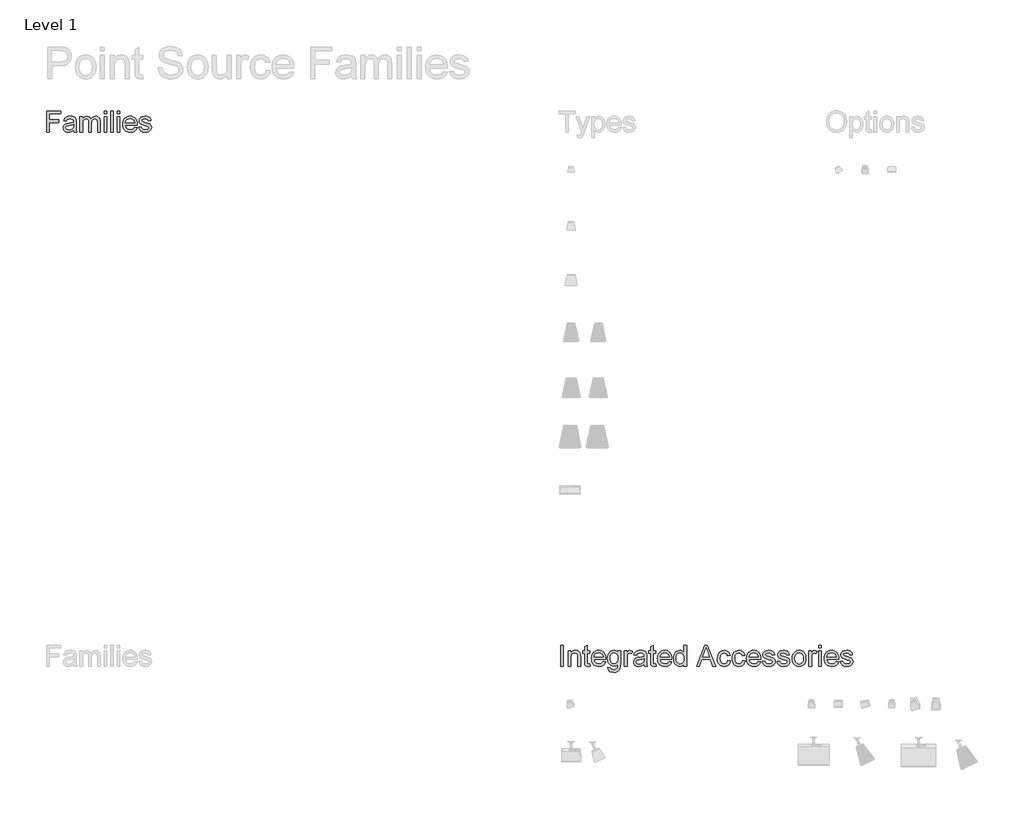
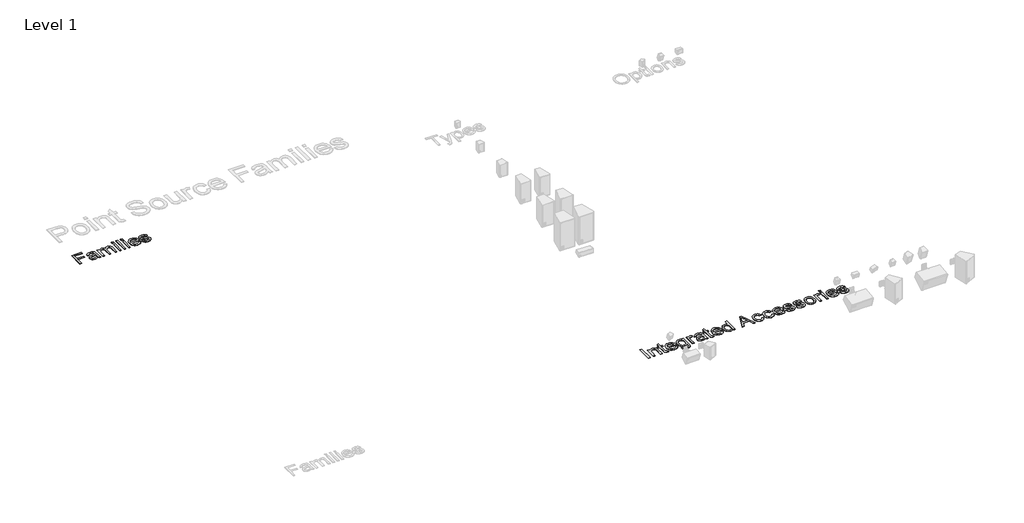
# One storey, part 8 of 12: 2 proxies.
"""IFC4 building model written with IfcOpenShell, lengths in millimetres."""

from ifc_helpers import new_model, si_unit, origin, origin_with_axes, place, context, project, spatial, polyline, outline, extrude, element, save

model = new_model("IFC4")

# Units and contexts
model_context = context("Model", 3, world=origin())
ifc_project = project(units=[si_unit("LENGTHUNIT", "METRE", prefix="MILLI")], contexts=[model_context])

# Site, building, storey
site = spatial("IfcSite", under=ifc_project)
building = spatial("IfcBuilding", under=site)
storey = spatial("IfcBuildingStorey", under=building, Name="Level 1", Elevation=0.0)

# Proxies
placement = place(None, origin())
element("IfcBuildingElementProxy", 1, Name="400mm Arial", ObjectType="400mm Arial", at=placement, inside=storey, context=model_context, shape_type="SweptSolid", body=[
    extrude(outline(polyline([(-21056.720891, 17351.3054836), (-21056.720891, 17743.0630593), (-20793.5087698, 17743.0630593), (-20793.5087698, 17694.0933624), (-21007.7511941, 17694.0933624), (-21007.7511941, 17577.7903321), (-20824.1148304, 17577.7903321), (-20824.1148304, 17528.8206351), (-21007.7511941, 17528.8206351), (-21007.7511941, 17351.3054836), (-21056.720891, 17351.3054836)])), origin_with_axes(), (0.0, 0.0, 1.0), 5.0),
    extrude(outline(polyline([(-20548.660285, 17388.0327563), (-20572.0571836, 17367.97144), (-20596.1475009, 17354.8443093), (-20621.4811893, 17347.5992809), (-20648.6082016, 17345.1842715), (-20670.4120309, 17346.6368638), (-20689.5318522, 17350.9946408), (-20705.9676654, 17358.2576024), (-20719.7194706, 17368.4257487), (-20730.5780466, 17380.8534831), (-20738.3341723, 17394.895209), (-20742.9878477, 17410.5509263), (-20744.5390729, 17427.8206351), (-20742.1957963, 17448.1210612), (-20735.1659668, 17466.5564305), (-20724.3223352, 17482.3376805), (-20710.5376524, 17494.6757487), (-20676.2493001, 17510.7439305), (-20633.879035, 17518.1085139), (-20583.8094327, 17525.855673), (-20548.9472168, 17534.9418472), (-20548.660285, 17545.8452563), (-20552.0317338, 17567.6998965), (-20562.1460804, 17581.9986654), (-20584.7658721, 17592.6151427), (-20616.2805501, 17596.1539684), (-20645.4519516, 17593.7987364), (-20665.8241107, 17586.7330404), (-20679.7163929, 17573.6656872), (-20689.4481638, 17553.3054836), (-20738.4178607, 17559.4266957), (-20729.9175056, 17586.2069987), (-20717.2327282, 17607.2486654), (-20699.1799346, 17623.3407582), (-20674.5755312, 17635.2723396), (-20644.4835568, 17642.660834), (-20609.9680501, 17645.1236654), (-20576.8632916, 17642.9477658), (-20550.6209857, 17636.4200669), (-20530.8346458, 17626.6046076), (-20517.097785, 17614.5654268), (-20507.9876997, 17599.6808387), (-20502.0816865, 17581.3291578), (-20499.690588, 17538.480673), (-20499.690588, 17477.5554836), (-20497.2038456, 17392.4801995), (-20487.4481638, 17351.3054836), (-20536.4178607, 17351.3054836), (-20544.2606638, 17368.3301048), (-20548.660285, 17388.0327563)]), holes=[polyline([(-20548.660285, 17485.9721502), (-20581.5618001, 17477.8185044), (-20627.6621789, 17470.9560518), (-20669.7933342, 17463.0176048), (-20680.7565208, 17457.5898112), (-20688.8743001, 17450.105673), (-20693.8956069, 17441.1390536), (-20695.5693759, 17431.2638169), (-20691.9229507, 17416.7020271), (-20680.9836751, 17404.7704457), (-20662.990659, 17396.8080877), (-20638.1830122, 17394.1539684), (-20611.8809289, 17397.0830641), (-20588.6394516, 17405.870351), (-20569.7975956, 17418.8181493), (-20556.6943759, 17434.228779), (-20550.8840066, 17450.105673), (-20548.9472168, 17472.103779), (-20548.660285, 17485.9721502)])]), origin_with_axes(), (0.0, 0.0, 1.0), 5.0),
    extrude(outline(polyline([(-20432.3572547, 17351.3054836), (-20432.3572547, 17639.0024533), (-20383.3875577, 17639.0024533), (-20383.3875577, 17591.6587033), (-20368.658391, 17613.405744), (-20349.720891, 17630.4423207), (-20327.2206543, 17641.4533292), (-20301.8032774, 17645.1236654), (-20274.5686657, 17641.3815963), (-20252.7379365, 17630.1553889), (-20236.4306448, 17612.1862838), (-20225.7663456, 17588.2155215), (-20207.9167954, 17613.1128344), (-20187.5565918, 17630.8966294), (-20164.6857348, 17641.5669064), (-20139.3042244, 17645.1236654), (-20119.7002057, 17643.6441732), (-20102.4932632, 17639.2056966), (-20087.683397, 17631.8082357), (-20075.2706069, 17621.4517904), (-20065.4581365, 17608.0168058), (-20058.4492291, 17591.3837269), (-20054.2438846, 17571.5525539), (-20052.8421032, 17548.5232866), (-20052.8421032, 17351.3054836), (-20101.8118001, 17351.3054836), (-20101.8118001, 17527.4816199), (-20106.3548872, 17568.369404), (-20112.7391202, 17579.6434334), (-20122.8056448, 17588.5024533), (-20135.7534431, 17594.2410896), (-20150.7814971, 17596.1539684), (-20177.3107348, 17591.2522165), (-20198.9382206, 17576.5469608), (-20207.3279874, 17565.2669537), (-20213.320678, 17551.03394), (-20218.1148304, 17513.7088927), (-20218.1148304, 17351.3054836), (-20267.0845274, 17351.3054836), (-20267.0845274, 17532.9333245), (-20269.9179791, 17560.6222449), (-20278.4183342, 17580.3727184), (-20293.3746552, 17592.2086559), (-20315.5760047, 17596.1539684), (-20334.4417717, 17593.5237601), (-20351.8250577, 17585.6331351), (-20366.1716486, 17572.6733813), (-20375.9273304, 17554.8357866), (-20381.5225009, 17530.0879173), (-20383.3875577, 17496.3973396), (-20383.3875577, 17351.3054836), (-20432.3572547, 17351.3054836)])), origin_with_axes(), (0.0, 0.0, 1.0), 5.0),
    extrude(outline(polyline([(-19979.3875577, 17351.3054836), (-19979.3875577, 17639.0024533), (-19930.4178607, 17639.0024533), (-19930.4178607, 17351.3054836), (-19979.3875577, 17351.3054836)])), origin_with_axes(), (0.0, 0.0, 1.0), 5.0),
    extrude(outline(polyline([(-19979.3875577, 17694.0933624), (-19979.3875577, 17743.0630593), (-19930.4178607, 17743.0630593), (-19930.4178607, 17694.0933624), (-19979.3875577, 17694.0933624)])), origin_with_axes(), (0.0, 0.0, 1.0), 5.0),
    extrude(outline(polyline([(-19856.9633153, 17351.3054836), (-19856.9633153, 17743.0630593), (-19807.9936183, 17743.0630593), (-19807.9936183, 17351.3054836), (-19856.9633153, 17351.3054836)])), origin_with_axes(), (0.0, 0.0, 1.0), 5.0),
    extrude(outline(polyline([(-19734.5390729, 17351.3054836), (-19734.5390729, 17639.0024533), (-19685.5693759, 17639.0024533), (-19685.5693759, 17351.3054836), (-19734.5390729, 17351.3054836)])), origin_with_axes(), (0.0, 0.0, 1.0), 5.0),
    extrude(outline(polyline([(-19734.5390729, 17694.0933624), (-19734.5390729, 17743.0630593), (-19685.5693759, 17743.0630593), (-19685.5693759, 17694.0933624), (-19734.5390729, 17694.0933624)])), origin_with_axes(), (0.0, 0.0, 1.0), 5.0),
    extrude(outline(polyline([(-19410.6886941, 17437.0024533), (-19362.6754365, 17430.8812411), (-19370.0370309, 17411.6508316), (-19379.975034, 17394.7039211), (-19392.4894457, 17380.0405096), (-19407.580266, 17367.6605972), (-19425.0920736, 17357.8272047), (-19444.8694469, 17350.8033529), (-19491.220891, 17345.1842715), (-19521.605775, 17347.6082475), (-19548.6789876, 17354.8801758), (-19572.4405288, 17367.0000563), (-19592.8903986, 17383.9678889), (-19609.3351784, 17405.3114317), (-19621.0814497, 17430.5584429), (-19628.1292125, 17459.7089223), (-19630.4784668, 17492.7628699), (-19628.1053015, 17526.937645), (-19620.9858058, 17557.0595082), (-19609.1199796, 17583.1284594), (-19592.5078229, 17605.1444987), (-19572.1117528, 17622.6353841), (-19548.8941865, 17635.1288737), (-19522.855124, 17642.6249675), (-19493.9945653, 17645.1236654), (-19466.0635461, 17642.6309452), (-19440.8045795, 17635.1527847), (-19418.2176654, 17622.6891839), (-19398.3028039, 17605.2401427), (-19382.0463231, 17583.2719253), (-19370.4345511, 17557.2507961), (-19363.4674879, 17527.1767549), (-19361.1451335, 17493.0498018), (-19361.4320653, 17479.8509381), (-19581.5087698, 17479.8509381), (-19578.6723292, 17460.3096858), (-19573.0323257, 17443.1953983), (-19564.5887592, 17428.5080759), (-19553.3416297, 17416.2477184), (-19524.9234242, 17399.6774059), (-19490.2644516, 17394.1539684), (-19464.2014782, 17396.7124438), (-19442.2511941, 17404.3878699), (-19424.4135994, 17417.6584665), (-19410.6886941, 17437.0024533)]), holes=[polyline([(-19581.5087698, 17528.8206351), (-19410.1148304, 17528.8206351), (-19416.7381732, 17554.6923207), (-19429.721838, 17573.199423), (-19443.076123, 17583.2420366), (-19458.2715539, 17590.4153321), (-19494.1858532, 17596.1539684), (-19527.1949677, 17591.5750148), (-19554.4893569, 17577.838154), (-19573.4627234, 17556.4258671), (-19581.5087698, 17528.8206351)])]), origin_with_axes(), (0.0, 0.0, 1.0), 5.0),
    extrude(outline(polyline([(-19330.5390729, 17437.0024533), (-19281.5693759, 17443.1236654), (-19273.8461278, 17422.1776427), (-19258.9017622, 17406.7789684), (-19236.6406354, 17397.3102184), (-19206.9671032, 17394.1539684), (-19177.6522357, 17397.0471976), (-19157.0409668, 17405.7268851), (-19144.8463645, 17418.3040631), (-19140.7814971, 17432.8897639), (-19144.8702755, 17445.371298), (-19157.1366107, 17454.8878699), (-19207.5409668, 17468.8518851), (-19281.2824441, 17492.8106919), (-19299.9449677, 17504.8498728), (-19313.4666297, 17520.7865442), (-19321.680053, 17539.6044893), (-19324.4178607, 17560.2874911), (-19322.2180501, 17579.2608576), (-19315.6186183, 17596.775654), (-19305.2173399, 17612.1384618), (-19291.6119895, 17624.6558624), (-19260.4798872, 17639.1459192), (-19218.3487319, 17645.1236654), (-19186.4753891, 17642.7206114), (-19158.7625577, 17635.5114495), (-19136.4775198, 17624.2015536), (-19120.8875577, 17609.496298), (-19110.5580122, 17590.3077326), (-19104.0542244, 17565.5479078), (-19153.0239213, 17559.4266957), (-19159.2049109, 17574.8373254), (-19171.4353797, 17586.4461086), (-19189.8348825, 17593.7270035), (-19214.5229744, 17596.1539684), (-19242.6422925, 17593.8346029), (-19261.3885047, 17586.8765063), (-19271.933249, 17576.8338927), (-19275.4481638, 17565.260976), (-19269.6138835, 17551.010029), (-19251.345891, 17540.2022639), (-19209.1669138, 17529.7770745), (-19137.2904933, 17506.7268851), (-19118.3051713, 17495.7039211), (-19103.9107585, 17480.6160896), (-19094.8365397, 17461.4155688), (-19091.8118001, 17438.0545366), (-19095.3625814, 17413.9044419), (-19106.0149251, 17391.1890063), (-19123.3623446, 17371.6895982), (-19146.9983532, 17357.1875858), (-19175.5480691, 17348.1851), (-19207.6366107, 17345.1842715), (-19233.9924938, 17346.630886), (-19257.0127944, 17350.9707298), (-19276.6975127, 17358.2038027), (-19293.0466486, 17368.3301048), (-19306.4009336, 17381.3018141), (-19317.1010994, 17397.0711086), (-19325.1471458, 17415.6379883), (-19330.5390729, 17437.0024533)])), origin_with_axes(), (0.0, 0.0, 1.0), 5.0),
])
element("IfcBuildingElementProxy", 2, Name="400mm Arial", ObjectType="400mm Arial", at=placement, inside=storey, context=model_context, shape_type="SweptSolid", body=[
    extrude(outline(polyline([(-11437.7764845, 7351.3054836), (-11437.7764845, 7743.0630593), (-11388.8067875, 7743.0630593), (-11388.8067875, 7351.3054836), (-11437.7764845, 7351.3054836)])), origin_with_axes(), (0.0, 0.0, 1.0), 5.0),
    extrude(outline(polyline([(-11296.9886057, 7351.3054836), (-11296.9886057, 7639.0024533), (-11248.0189088, 7639.0024533), (-11248.0189088, 7598.8319987), (-11231.006243, 7619.0846029), (-11210.5743065, 7633.5507487), (-11186.7230991, 7642.2304362), (-11159.4526209, 7645.1236654), (-11135.3144817, 7642.7923444), (-11113.2087762, 7635.7983813), (-11094.7734069, 7625.0145271), (-11081.6462762, 7611.3135328), (-11072.7394343, 7594.7312648), (-11066.9649315, 7575.3035896), (-11064.3825451, 7527.9598396), (-11064.3825451, 7351.3054836), (-11113.3522421, 7351.3054836), (-11113.3522421, 7521.3604078), (-11114.7629902, 7546.6821408), (-11118.9952345, 7564.6871124), (-11126.8021711, 7577.5870887), (-11138.9369959, 7587.5938358), (-11154.4910915, 7594.0139353), (-11172.5558406, 7596.1539684), (-11201.2370669, 7591.3478605), (-11225.6860489, 7576.9295366), (-11235.4566751, 7565.1593543), (-11242.4356938, 7549.0732393), (-11246.623105, 7528.6711914), (-11248.0189088, 7503.9532108), (-11248.0189088, 7351.3054836), (-11296.9886057, 7351.3054836)])), origin_with_axes(), (0.0, 0.0, 1.0), 5.0),
    extrude(outline(polyline([(-10892.9886057, 7392.1454457), (-10886.8673936, 7349.8708245), (-10923.4990224, 7345.1842715), (-10947.0035205, 7347.2167052), (-10964.5302724, 7353.3140063), (-10976.9161625, 7362.7110233), (-10984.9980754, 7374.6426048), (-10989.4455186, 7395.1343188), (-10990.9279997, 7430.2117336), (-10990.9279997, 7590.0327563), (-11027.6552724, 7590.0327563), (-11027.6552724, 7639.0024533), (-10990.9279997, 7639.0024533), (-10990.9279997, 7708.918173), (-10941.9583027, 7737.7069987), (-10941.9583027, 7639.0024533), (-10892.9886057, 7639.0024533), (-10892.9886057, 7590.0327563), (-10941.9583027, 7590.0327563), (-10941.9583027, 7431.6463927), (-10939.3759163, 7406.3963927), (-10931.0070716, 7397.4536843), (-10914.3172042, 7394.1539684), (-10892.9886057, 7392.1454457)])), origin_with_axes(), (0.0, 0.0, 1.0), 5.0),
    extrude(outline(polyline([(-10642.5927724, 7437.0024533), (-10594.5795148, 7430.8812411), (-10601.9411093, 7411.6508316), (-10611.8791124, 7394.7039211), (-10624.3935241, 7380.0405096), (-10639.4843444, 7367.6605972), (-10656.9961519, 7357.8272047), (-10676.7735252, 7350.8033529), (-10723.1249694, 7345.1842715), (-10753.5098534, 7347.6082475), (-10780.583066, 7354.8801758), (-10804.3446072, 7367.0000563), (-10824.7944769, 7383.9678889), (-10841.2392568, 7405.3114317), (-10852.9855281, 7430.5584429), (-10860.0332909, 7459.7089223), (-10862.3825451, 7492.7628699), (-10860.0093799, 7526.937645), (-10852.8898841, 7557.0595082), (-10841.0240579, 7583.1284594), (-10824.4119012, 7605.1444987), (-10804.0158311, 7622.6353841), (-10780.7982648, 7635.1288737), (-10754.7592023, 7642.6249675), (-10725.8986436, 7645.1236654), (-10697.9676244, 7642.6309452), (-10672.7086578, 7635.1527847), (-10650.1217438, 7622.6891839), (-10630.2068822, 7605.2401427), (-10613.9504014, 7583.2719253), (-10602.3386294, 7557.2507961), (-10595.3715662, 7527.1767549), (-10593.0492118, 7493.0498018), (-10593.3361436, 7479.8509381), (-10813.4128482, 7479.8509381), (-10810.5764076, 7460.3096858), (-10804.936404, 7443.1953983), (-10796.4928375, 7428.5080759), (-10785.245708, 7416.2477184), (-10756.8275025, 7399.6774059), (-10722.16853, 7394.1539684), (-10696.1055565, 7396.7124438), (-10674.1552724, 7404.3878699), (-10656.3176777, 7417.6584665), (-10642.5927724, 7437.0024533)]), holes=[polyline([(-10813.4128482, 7528.8206351), (-10642.0189088, 7528.8206351), (-10648.6422516, 7554.6923207), (-10661.6259163, 7573.199423), (-10674.9802014, 7583.2420366), (-10690.1756322, 7590.4153321), (-10726.0899315, 7596.1539684), (-10759.0990461, 7591.5750148), (-10786.3934353, 7577.838154), (-10805.3668018, 7556.4258671), (-10813.4128482, 7528.8206351)])]), origin_with_axes(), (0.0, 0.0, 1.0), 5.0),
    extrude(outline(polyline([(-10556.3219391, 7326.8206351), (-10507.3522421, 7320.699423), (-10501.9483595, 7305.3963927), (-10491.4753482, 7294.8755593), (-10470.8879902, 7286.6980025), (-10443.9403103, 7283.9721502), (-10415.1993065, 7287.0566673), (-10393.822886, 7296.3102184), (-10378.9980754, 7311.135029), (-10369.9119012, 7330.9333245), (-10366.5643633, 7388.0327563), (-10382.8596995, 7371.9645745), (-10401.0440035, 7360.4873018), (-10421.1172752, 7353.6009381), (-10443.0795148, 7351.3054836), (-10469.9285619, 7353.9775361), (-10493.5675593, 7361.9936938), (-10513.996507, 7375.3539566), (-10531.215405, 7394.0583245), (-10544.8775439, 7416.4987838), (-10554.6362146, 7441.0673207), (-10560.491417, 7467.7639353), (-10562.4431512, 7496.5886275), (-10558.9401919, 7536.125441), (-10548.4313141, 7572.4820934), (-10531.2871379, 7603.2913974), (-10507.8782838, 7626.1861654), (-10479.0057696, 7640.3892904), (-10445.4706133, 7645.1236654), (-10422.5698676, 7642.4456351), (-10401.785244, 7634.4115442), (-10383.1167426, 7621.0213927), (-10366.5643633, 7602.2751805), (-10366.5643633, 7639.0024533), (-10317.5946663, 7639.0024533), (-10317.5946663, 7390.6151427), (-10320.9422042, 7333.2646455), (-10330.9848179, 7295.4972449), (-10348.2844154, 7270.4504883), (-10373.402905, 7251.261923), (-10405.7903339, 7239.0673207), (-10444.8967497, 7235.0024533), (-10490.4591313, 7240.7291341), (-10509.6088413, 7247.8874852), (-10526.3375641, 7257.9091768), (-10539.8502594, 7270.8061642), (-10549.351887, 7286.5904031), (-10554.8424469, 7305.2618934), (-10556.3219391, 7326.8206351)]), holes=[polyline([(-10513.4734542, 7499.9361654), (-10508.248904, 7455.0193804), (-10501.7182163, 7437.8243934), (-10492.5752535, 7424.1383434), (-10481.4596344, 7413.6982097), (-10469.0109779, 7406.2409713), (-10455.229284, 7401.7666282), (-10440.1145527, 7400.2751805), (-10411.4333264, 7406.2051048), (-10387.7494959, 7423.9948775), (-10378.4810004, 7437.5464282), (-10371.8606464, 7454.4813832), (-10366.5643633, 7498.5015063), (-10372.0160679, 7540.9554599), (-10378.8306985, 7557.7260269), (-10388.3711815, 7571.525654), (-10412.4017213, 7589.9968898), (-10426.0847823, 7594.6146988), (-10440.8797042, 7596.1539684), (-10455.4265496, 7594.6386098), (-10468.843601, 7590.0925338), (-10492.2883216, 7571.9082298), (-10501.5568171, 7558.3178238), (-10508.1771711, 7541.7923444), (-10513.4734542, 7499.9361654)])]), origin_with_axes(), (0.0, 0.0, 1.0), 5.0),
    extrude(outline(polyline([(-10244.1401209, 7351.3054836), (-10244.1401209, 7639.0024533), (-10201.291636, 7639.0024533), (-10201.291636, 7596.4409002), (-10185.4625641, 7621.1170366), (-10170.8768633, 7635.6549154), (-10156.2433406, 7642.7564779), (-10140.2708027, 7645.1236654), (-10115.8815982, 7641.3457298), (-10091.1098179, 7630.011923), (-10107.4649315, 7586.1113548), (-10124.6808406, 7593.643315), (-10141.8967497, 7596.1539684), (-10156.5183169, 7593.738959), (-10169.5856701, 7586.4939305), (-10180.1423699, 7574.9688358), (-10187.2319769, 7559.7136275), (-10193.1858122, 7532.3594608), (-10195.1704239, 7502.5185518), (-10195.1704239, 7351.3054836), (-10244.1401209, 7351.3054836)])), origin_with_axes(), (0.0, 0.0, 1.0), 5.0),
    extrude(outline(polyline([(-9876.8673936, 7388.0327563), (-9900.2642923, 7367.97144), (-9924.3546095, 7354.8443093), (-9949.688298, 7347.5992809), (-9976.8153103, 7345.1842715), (-9998.6191396, 7346.6368638), (-10017.7389608, 7350.9946408), (-10034.1747741, 7358.2576024), (-10047.9265792, 7368.4257487), (-10058.7851552, 7380.8534831), (-10066.5412809, 7394.895209), (-10071.1949563, 7410.5509263), (-10072.7461815, 7427.8206351), (-10070.402905, 7448.1210612), (-10063.3730754, 7466.5564305), (-10052.5294438, 7482.3376805), (-10038.744761, 7494.6757487), (-10004.4564088, 7510.7439305), (-9962.0861436, 7518.1085139), (-9912.0165413, 7525.855673), (-9877.1543254, 7534.9418472), (-9876.8673936, 7545.8452563), (-9880.2388425, 7567.6998965), (-9890.3531891, 7581.9986654), (-9912.9729807, 7592.6151427), (-9944.4876588, 7596.1539684), (-9973.6590603, 7593.7987364), (-9994.0312194, 7586.7330404), (-10007.9235016, 7573.6656872), (-10017.6552724, 7553.3054836), (-10066.6249694, 7559.4266957), (-10058.1246143, 7586.2069987), (-10045.4398368, 7607.2486654), (-10027.3870432, 7623.3407582), (-10002.7826398, 7635.2723396), (-9972.6906654, 7642.660834), (-9938.1751588, 7645.1236654), (-9905.0704002, 7642.9477658), (-9878.8280944, 7636.4200669), (-9859.0417544, 7626.6046076), (-9845.3048936, 7614.5654268), (-9836.1948084, 7599.6808387), (-9830.2887951, 7581.3291578), (-9827.8976966, 7538.480673), (-9827.8976966, 7477.5554836), (-9825.4109542, 7392.4801995), (-9815.6552724, 7351.3054836), (-9864.6249694, 7351.3054836), (-9872.4677724, 7368.3301048), (-9876.8673936, 7388.0327563)]), holes=[polyline([(-9876.8673936, 7485.9721502), (-9909.7689088, 7477.8185044), (-9955.8692875, 7470.9560518), (-9998.0004429, 7463.0176048), (-10008.9636294, 7457.5898112), (-10017.0814088, 7450.105673), (-10022.1027156, 7441.1390536), (-10023.7764845, 7431.2638169), (-10020.1300593, 7416.7020271), (-10009.1907838, 7404.7704457), (-9991.1977677, 7396.8080877), (-9966.3901209, 7394.1539684), (-9940.0880375, 7397.0830641), (-9916.8465603, 7405.870351), (-9898.0047042, 7418.8181493), (-9884.9014845, 7434.228779), (-9879.0911152, 7450.105673), (-9877.1543254, 7472.103779), (-9876.8673936, 7485.9721502)])]), origin_with_axes(), (0.0, 0.0, 1.0), 5.0),
    extrude(outline(polyline([(-9656.5037572, 7392.1454457), (-9650.3825451, 7349.8708245), (-9687.0141739, 7345.1842715), (-9710.518672, 7347.2167052), (-9728.0454239, 7353.3140063), (-9740.4313141, 7362.7110233), (-9748.5132269, 7374.6426048), (-9752.9606701, 7395.1343188), (-9754.4431512, 7430.2117336), (-9754.4431512, 7590.0327563), (-9791.1704239, 7590.0327563), (-9791.1704239, 7639.0024533), (-9754.4431512, 7639.0024533), (-9754.4431512, 7708.918173), (-9705.4734542, 7737.7069987), (-9705.4734542, 7639.0024533), (-9656.5037572, 7639.0024533), (-9656.5037572, 7590.0327563), (-9705.4734542, 7590.0327563), (-9705.4734542, 7431.6463927), (-9702.8910679, 7406.3963927), (-9694.5222232, 7397.4536843), (-9677.8323557, 7394.1539684), (-9656.5037572, 7392.1454457)])), origin_with_axes(), (0.0, 0.0, 1.0), 5.0),
    extrude(outline(polyline([(-9406.1079239, 7437.0024533), (-9358.0946663, 7430.8812411), (-9365.4562608, 7411.6508316), (-9375.3942639, 7394.7039211), (-9387.9086756, 7380.0405096), (-9402.9994959, 7367.6605972), (-9420.5113034, 7357.8272047), (-9440.2886768, 7350.8033529), (-9486.6401209, 7345.1842715), (-9517.0250049, 7347.6082475), (-9544.0982175, 7354.8801758), (-9567.8597587, 7367.0000563), (-9588.3096285, 7383.9678889), (-9604.7544083, 7405.3114317), (-9616.5006796, 7430.5584429), (-9623.5484424, 7459.7089223), (-9625.8976966, 7492.7628699), (-9623.5245314, 7526.937645), (-9616.4050357, 7557.0595082), (-9604.5392094, 7583.1284594), (-9587.9270527, 7605.1444987), (-9567.5309826, 7622.6353841), (-9544.3134163, 7635.1288737), (-9518.2743538, 7642.6249675), (-9489.4137951, 7645.1236654), (-9461.4827759, 7642.6309452), (-9436.2238093, 7635.1527847), (-9413.6368953, 7622.6891839), (-9393.7220338, 7605.2401427), (-9377.4655529, 7583.2719253), (-9365.8537809, 7557.2507961), (-9358.8867177, 7527.1767549), (-9356.5643633, 7493.0498018), (-9356.8512951, 7479.8509381), (-9576.9279997, 7479.8509381), (-9574.0915591, 7460.3096858), (-9568.4515555, 7443.1953983), (-9560.007989, 7428.5080759), (-9548.7608595, 7416.2477184), (-9520.342654, 7399.6774059), (-9485.6836815, 7394.1539684), (-9459.620708, 7396.7124438), (-9437.6704239, 7404.3878699), (-9419.8328292, 7417.6584665), (-9406.1079239, 7437.0024533)]), holes=[polyline([(-9576.9279997, 7528.8206351), (-9405.5340603, 7528.8206351), (-9412.1574031, 7554.6923207), (-9425.1410679, 7573.199423), (-9438.4953529, 7583.2420366), (-9453.6907838, 7590.4153321), (-9489.605083, 7596.1539684), (-9522.6141976, 7591.5750148), (-9549.9085868, 7577.838154), (-9568.8819533, 7556.4258671), (-9576.9279997, 7528.8206351)])]), origin_with_axes(), (0.0, 0.0, 1.0), 5.0),
    extrude(outline(polyline([(-9130.0795148, 7351.3054836), (-9130.0795148, 7397.5015063), (-9144.7309708, 7374.6127161), (-9162.4788993, 7358.2635802), (-9183.3233003, 7348.4540986), (-9207.2641739, 7345.1842715), (-9238.9223179, 7349.9186465), (-9267.9024315, 7364.1217715), (-9292.4351019, 7386.8013406), (-9310.7509163, 7416.965048), (-9322.1564561, 7453.3934334), (-9325.9583027, 7494.8670366), (-9322.4553434, 7535.8265536), (-9311.9464656, 7572.8168472), (-9294.4436247, 7603.7337506), (-9269.9587762, 7626.4730972), (-9240.3450214, 7640.4610233), (-9207.4554618, 7645.1236654), (-9183.496655, 7641.788083), (-9162.3115224, 7631.7813358), (-9144.3543728, 7616.4424391), (-9130.0795148, 7597.1104078), (-9130.0795148, 7743.0630593), (-9081.1098179, 7743.0630593), (-9081.1098179, 7351.3054836), (-9130.0795148, 7351.3054836)]), holes=[polyline([(-9276.9886057, 7495.0583245), (-9271.4651682, 7450.763225), (-9264.5608714, 7433.4128167), (-9254.8948557, 7419.2605025), (-9230.816494, 7400.4306019), (-9217.2888543, 7395.7231268), (-9202.7689088, 7394.1539684), (-9174.733279, 7400.1436701), (-9151.2646474, 7418.1127752), (-9141.9961519, 7431.6732925), (-9135.375798, 7448.3960375), (-9130.0795148, 7491.3282108), (-9135.4714419, 7538.2654741), (-9142.2113508, 7556.3362009), (-9151.6472232, 7570.8083245), (-9163.0557518, 7581.8970437), (-9175.7136294, 7589.8175574), (-9189.620856, 7594.5698657), (-9204.7774315, 7596.1539684), (-9219.5843089, 7594.632632), (-9233.1119485, 7590.0686228), (-9245.3603505, 7582.4619407), (-9256.3295148, 7571.8125858), (-9265.3678671, 7557.887426), (-9271.823833, 7540.4533292), (-9276.9886057, 7495.0583245)])]), origin_with_axes(), (0.0, 0.0, 1.0), 5.0),
    extrude(outline(polyline([(-8894.1259163, 7351.3054836), (-8737.7480754, 7743.0630593), (-8696.0473179, 7743.0630593), (-8539.6694769, 7351.3054836), (-8591.4128482, 7351.3054836), (-8636.2698557, 7473.729726), (-8797.6211815, 7473.729726), (-8842.3825451, 7351.3054836), (-8894.1259163, 7351.3054836)]), holes=[polyline([(-8779.6401209, 7522.699423), (-8654.1552724, 7522.699423), (-8689.447886, 7619.0128699), (-8716.8976966, 7694.0933624), (-8741.2869012, 7627.4295366), (-8779.6401209, 7522.699423)])]), origin_with_axes(), (0.0, 0.0, 1.0), 5.0),
    extrude(outline(polyline([(-8309.8370906, 7455.3660896), (-8260.8673936, 7449.2448775), (-8266.1935655, 7426.1378995), (-8274.520566, 7405.6910186), (-8285.848395, 7387.9042348), (-8300.1770527, 7372.777548), (-8316.9027866, 7360.7054895), (-8335.4218444, 7352.0825906), (-8355.734226, 7346.9088512), (-8377.8399315, 7345.1842715), (-8405.3046865, 7347.5903143), (-8429.930012, 7354.8084429), (-8451.715908, 7366.8386571), (-8470.6623747, 7383.6809571), (-8485.9982826, 7405.0185222), (-8496.9525025, 7430.5345319), (-8503.5250345, 7460.2289862), (-8505.7158785, 7494.1018851), (-8501.9738093, 7537.679655), (-8490.7476019, 7575.4470555), (-8471.8579239, 7605.9455167), (-8445.1254429, 7627.7164684), (-8413.1445006, 7640.7718661), (-8378.5094391, 7645.1236654), (-8356.7833205, 7643.6292288), (-8337.1314798, 7639.1459192), (-8319.553917, 7631.6737364), (-8304.0506322, 7621.2126805), (-8290.8846462, 7608.0018614), (-8280.3189798, 7592.2803889), (-8272.353633, 7574.0482629), (-8266.9886057, 7553.3054836), (-8315.9583027, 7547.1842715), (-8324.8412336, 7568.5487364), (-8338.6737383, 7583.8637222), (-8356.6906654, 7593.0814069), (-8378.1268633, 7596.1539684), (-8394.7659199, 7594.6415986), (-8409.7730518, 7590.1044893), (-8423.1482589, 7582.5426403), (-8434.8915413, 7571.9560518), (-8444.4529464, 7558.099636), (-8451.2825214, 7540.7283055), (-8456.7461815, 7495.4409002), (-8451.4020764, 7449.5437648), (-8444.721945, 7432.0558683), (-8435.369761, 7418.2084192), (-8423.8596107, 7407.684597), (-8410.7055802, 7400.1675811), (-8395.9076694, 7395.6573716), (-8379.4658785, 7394.1539684), (-8354.108279, 7397.907993), (-8333.3176777, 7409.1700669), (-8318.1939798, 7428.2271218), (-8309.8370906, 7455.3660896)])), origin_with_axes(), (0.0, 0.0, 1.0), 5.0),
    extrude(outline(polyline([(-8034.3825451, 7455.3660896), (-7985.4128482, 7449.2448775), (-7990.73902, 7426.1378995), (-7999.0660205, 7405.6910186), (-8010.3938496, 7387.9042348), (-8024.7225072, 7372.777548), (-8041.4482411, 7360.7054895), (-8059.9672989, 7352.0825906), (-8080.2796805, 7346.9088512), (-8102.385386, 7345.1842715), (-8129.850141, 7347.5903143), (-8154.4754665, 7354.8084429), (-8176.2613626, 7366.8386571), (-8195.2078292, 7383.6809571), (-8210.5437371, 7405.0185222), (-8221.4979571, 7430.5345319), (-8228.070489, 7460.2289862), (-8230.261333, 7494.1018851), (-8226.5192639, 7537.679655), (-8215.2930565, 7575.4470555), (-8196.4033785, 7605.9455167), (-8169.6708974, 7627.7164684), (-8137.6899552, 7640.7718661), (-8103.0548936, 7645.1236654), (-8081.328775, 7643.6292288), (-8061.6769343, 7639.1459192), (-8044.0993716, 7631.6737364), (-8028.5960868, 7621.2126805), (-8015.4301008, 7608.0018614), (-8004.8644343, 7592.2803889), (-7996.8990875, 7574.0482629), (-7991.5340603, 7553.3054836), (-8040.5037572, 7547.1842715), (-8049.3866881, 7568.5487364), (-8063.2191929, 7583.8637222), (-8081.2361199, 7593.0814069), (-8102.6723179, 7596.1539684), (-8119.3113744, 7594.6415986), (-8134.3185063, 7590.1044893), (-8147.6937134, 7582.5426403), (-8159.4369959, 7571.9560518), (-8168.9984009, 7558.099636), (-8175.827976, 7540.7283055), (-8181.291636, 7495.4409002), (-8175.9475309, 7449.5437648), (-8169.2673995, 7432.0558683), (-8159.9152156, 7418.2084192), (-8148.4050652, 7407.684597), (-8135.2510347, 7400.1675811), (-8120.453124, 7395.6573716), (-8104.011333, 7394.1539684), (-8078.6537336, 7397.907993), (-8057.8631322, 7409.1700669), (-8042.7394343, 7428.2271218), (-8034.3825451, 7455.3660896)])), origin_with_axes(), (0.0, 0.0, 1.0), 5.0),
    extrude(outline(polyline([(-7741.1382269, 7437.0024533), (-7693.1249694, 7430.8812411), (-7700.4865638, 7411.6508316), (-7710.4245669, 7394.7039211), (-7722.9389786, 7380.0405096), (-7738.0297989, 7367.6605972), (-7755.5416064, 7357.8272047), (-7775.3189798, 7350.8033529), (-7821.6704239, 7345.1842715), (-7852.0553079, 7347.6082475), (-7879.1285205, 7354.8801758), (-7902.8900617, 7367.0000563), (-7923.3399315, 7383.9678889), (-7939.7847113, 7405.3114317), (-7951.5309826, 7430.5584429), (-7958.5787454, 7459.7089223), (-7960.9279997, 7492.7628699), (-7958.5548344, 7526.937645), (-7951.4353387, 7557.0595082), (-7939.5695125, 7583.1284594), (-7922.9573557, 7605.1444987), (-7902.5612857, 7622.6353841), (-7879.3437194, 7635.1288737), (-7853.3046569, 7642.6249675), (-7824.4440982, 7645.1236654), (-7796.513079, 7642.6309452), (-7771.2541124, 7635.1527847), (-7748.6671983, 7622.6891839), (-7728.7523368, 7605.2401427), (-7712.495856, 7583.2719253), (-7700.8840839, 7557.2507961), (-7693.9170207, 7527.1767549), (-7691.5946663, 7493.0498018), (-7691.8815982, 7479.8509381), (-7911.9583027, 7479.8509381), (-7909.1218621, 7460.3096858), (-7903.4818586, 7443.1953983), (-7895.038292, 7428.5080759), (-7883.7911625, 7416.2477184), (-7855.3729571, 7399.6774059), (-7820.7139845, 7394.1539684), (-7794.651011, 7396.7124438), (-7772.7007269, 7404.3878699), (-7754.8631322, 7417.6584665), (-7741.1382269, 7437.0024533)]), holes=[polyline([(-7911.9583027, 7528.8206351), (-7740.5643633, 7528.8206351), (-7747.1877061, 7554.6923207), (-7760.1713709, 7573.199423), (-7773.5256559, 7583.2420366), (-7788.7210868, 7590.4153321), (-7824.635386, 7596.1539684), (-7857.6445006, 7591.5750148), (-7884.9388898, 7577.838154), (-7903.9122563, 7556.4258671), (-7911.9583027, 7528.8206351)])]), origin_with_axes(), (0.0, 0.0, 1.0), 5.0),
    extrude(outline(polyline([(-7660.9886057, 7437.0024533), (-7612.0189088, 7443.1236654), (-7604.2956607, 7422.1776427), (-7589.3512951, 7406.7789684), (-7567.0901682, 7397.3102184), (-7537.416636, 7394.1539684), (-7508.1017686, 7397.0471976), (-7487.4904997, 7405.7268851), (-7475.2958974, 7418.3040631), (-7471.23103, 7432.8897639), (-7475.3198084, 7445.371298), (-7487.5861436, 7454.8878699), (-7537.9904997, 7468.8518851), (-7611.7319769, 7492.8106919), (-7630.3945006, 7504.8498728), (-7643.9161625, 7520.7865442), (-7652.1295858, 7539.6044893), (-7654.8673936, 7560.2874911), (-7652.667583, 7579.2608576), (-7646.0681512, 7596.775654), (-7635.6668728, 7612.1384618), (-7622.0615224, 7624.6558624), (-7590.9294201, 7639.1459192), (-7548.7982648, 7645.1236654), (-7516.924922, 7642.7206114), (-7489.2120906, 7635.5114495), (-7466.9270527, 7624.2015536), (-7451.3370906, 7609.496298), (-7441.0075451, 7590.3077326), (-7434.5037572, 7565.5479078), (-7483.4734542, 7559.4266957), (-7489.6544438, 7574.8373254), (-7501.8849125, 7586.4461086), (-7520.2844154, 7593.7270035), (-7544.9725072, 7596.1539684), (-7573.0918254, 7593.8346029), (-7591.8380375, 7586.8765063), (-7602.3827819, 7576.8338927), (-7605.8976966, 7565.260976), (-7600.0634163, 7551.010029), (-7581.7954239, 7540.2022639), (-7539.6164466, 7529.7770745), (-7467.7400262, 7506.7268851), (-7448.7547042, 7495.7039211), (-7434.3602913, 7480.6160896), (-7425.2860726, 7461.4155688), (-7422.261333, 7438.0545366), (-7425.8121143, 7413.9044419), (-7436.464458, 7391.1890063), (-7453.8118775, 7371.6895982), (-7477.447886, 7357.1875858), (-7505.9976019, 7348.1851), (-7538.0861436, 7345.1842715), (-7564.4420267, 7346.630886), (-7587.4623273, 7350.9707298), (-7607.1470456, 7358.2038027), (-7623.4961815, 7368.3301048), (-7636.8504665, 7381.3018141), (-7647.5506322, 7397.0711086), (-7655.5966786, 7415.6379883), (-7660.9886057, 7437.0024533)])), origin_with_axes(), (0.0, 0.0, 1.0), 5.0),
    extrude(outline(polyline([(-7385.5340603, 7437.0024533), (-7336.5643633, 7443.1236654), (-7328.8411152, 7422.1776427), (-7313.8967497, 7406.7789684), (-7291.6356228, 7397.3102184), (-7261.9620906, 7394.1539684), (-7232.6472232, 7397.0471976), (-7212.0359542, 7405.7268851), (-7199.8413519, 7418.3040631), (-7195.7764845, 7432.8897639), (-7199.8652629, 7445.371298), (-7212.1315982, 7454.8878699), (-7262.5359542, 7468.8518851), (-7336.2774315, 7492.8106919), (-7354.9399552, 7504.8498728), (-7368.4616171, 7520.7865442), (-7376.6750404, 7539.6044893), (-7379.4128482, 7560.2874911), (-7377.2130375, 7579.2608576), (-7370.6136057, 7596.775654), (-7360.2123273, 7612.1384618), (-7346.6069769, 7624.6558624), (-7315.4748747, 7639.1459192), (-7273.3437194, 7645.1236654), (-7241.4703766, 7642.7206114), (-7213.7575451, 7635.5114495), (-7191.4725072, 7624.2015536), (-7175.8825451, 7609.496298), (-7165.5529997, 7590.3077326), (-7159.0492118, 7565.5479078), (-7208.0189088, 7559.4266957), (-7214.1998983, 7574.8373254), (-7226.4303671, 7586.4461086), (-7244.8298699, 7593.7270035), (-7269.5179618, 7596.1539684), (-7297.63728, 7593.8346029), (-7316.3834921, 7586.8765063), (-7326.9282364, 7576.8338927), (-7330.4431512, 7565.260976), (-7324.6088709, 7551.010029), (-7306.3408785, 7540.2022639), (-7264.1619012, 7529.7770745), (-7192.2854807, 7506.7268851), (-7173.3001588, 7495.7039211), (-7158.9057459, 7480.6160896), (-7149.8315271, 7461.4155688), (-7146.8067875, 7438.0545366), (-7150.3575688, 7413.9044419), (-7161.0099125, 7391.1890063), (-7178.3573321, 7371.6895982), (-7201.9933406, 7357.1875858), (-7230.5430565, 7348.1851), (-7262.6315982, 7345.1842715), (-7288.9874812, 7346.630886), (-7312.0077819, 7350.9707298), (-7331.6925001, 7358.2038027), (-7348.041636, 7368.3301048), (-7361.3959211, 7381.3018141), (-7372.0960868, 7397.0711086), (-7380.1421332, 7415.6379883), (-7385.5340603, 7437.0024533)])), origin_with_axes(), (0.0, 0.0, 1.0), 5.0),
    extrude(outline(polyline([(-7103.9583027, 7495.1539684), (-7101.3101611, 7532.4132606), (-7093.3657364, 7564.5197355), (-7080.1250286, 7591.4733931), (-7061.5880375, 7613.2742336), (-7042.9255139, 7627.20836), (-7022.3262004, 7637.1613074), (-6999.7900972, 7643.1330759), (-6975.3172042, 7645.1236654), (-6948.3007802, 7642.6996893), (-6923.8727203, 7635.427761), (-6902.0330245, 7623.3078806), (-6882.7816929, 7606.340048), (-6867.0691869, 7585.0981268), (-6855.8459684, 7560.1559807), (-6849.1120373, 7531.5136098), (-6846.8673936, 7499.1710139), (-6850.8366171, 7449.6991862), (-6862.7442875, 7412.0393851), (-6882.2436957, 7383.8363785), (-6908.9881322, 7362.7349343), (-6940.7538756, 7349.5719372), (-6975.3172042, 7345.1842715), (-7002.7281595, 7347.5992809), (-7027.3833737, 7354.8443093), (-7049.282847, 7366.9193567), (-7068.4265792, 7383.824423), (-7083.9717082, 7405.2725764), (-7095.0753718, 7430.9768851), (-7101.73757, 7460.9373491), (-7103.9583027, 7495.1539684)]), holes=[polyline([(-7054.9886057, 7495.2496124), (-7053.5718799, 7471.4970378), (-7049.3217023, 7450.9306019), (-7042.2380731, 7433.5503048), (-7032.3209921, 7419.3561465), (-7020.2579002, 7408.3301936), (-7006.7362383, 7400.4545129), (-6991.7560063, 7395.7291045), (-6975.3172042, 7394.1539684), (-6958.9620906, 7395.7380712), (-6944.041636, 7400.4903794), (-6930.5558406, 7408.4108931), (-6918.5047042, 7419.4996124), (-6908.5876232, 7433.8342478), (-6901.503994, 7451.4925101), (-6897.2538164, 7472.4743993), (-6895.8370906, 7496.7799154), (-6897.262783, 7519.7792939), (-6901.5398605, 7539.8077326), (-6908.6683228, 7556.8652314), (-6918.6481701, 7570.9517904), (-6930.7441396, 7581.9777433), (-6944.2209684, 7589.8534239), (-6959.0786566, 7594.5788323), (-6975.3172042, 7596.1539684), (-6991.7560063, 7594.58481), (-7006.7362383, 7589.8773349), (-7020.2579002, 7582.031543), (-7032.3209921, 7571.0474343), (-7042.2380731, 7556.8951202), (-7049.3217023, 7539.5447118), (-7053.5718799, 7518.9962092), (-7054.9886057, 7495.2496124)])]), origin_with_axes(), (0.0, 0.0, 1.0), 5.0),
    extrude(outline(polyline([(-6791.7764845, 7351.3054836), (-6791.7764845, 7639.0024533), (-6748.9279997, 7639.0024533), (-6748.9279997, 7596.4409002), (-6733.0989277, 7621.1170366), (-6718.5132269, 7635.6549154), (-6703.8797042, 7642.7564779), (-6687.9071663, 7645.1236654), (-6663.5179618, 7641.3457298), (-6638.7461815, 7630.011923), (-6655.1012951, 7586.1113548), (-6672.3172042, 7593.643315), (-6689.5331133, 7596.1539684), (-6704.1546805, 7593.738959), (-6717.2220338, 7586.4939305), (-6727.7787336, 7574.9688358), (-6734.8683406, 7559.7136275), (-6740.8221758, 7532.3594608), (-6742.8067875, 7502.5185518), (-6742.8067875, 7351.3054836), (-6791.7764845, 7351.3054836)])), origin_with_axes(), (0.0, 0.0, 1.0), 5.0),
    extrude(outline(polyline([(-6608.1401209, 7351.3054836), (-6608.1401209, 7639.0024533), (-6559.1704239, 7639.0024533), (-6559.1704239, 7351.3054836), (-6608.1401209, 7351.3054836)])), origin_with_axes(), (0.0, 0.0, 1.0), 5.0),
    extrude(outline(polyline([(-6608.1401209, 7694.0933624), (-6608.1401209, 7743.0630593), (-6559.1704239, 7743.0630593), (-6559.1704239, 7694.0933624), (-6608.1401209, 7694.0933624)])), origin_with_axes(), (0.0, 0.0, 1.0), 5.0),
    extrude(outline(polyline([(-6284.2897421, 7437.0024533), (-6236.2764845, 7430.8812411), (-6243.638079, 7411.6508316), (-6253.5760821, 7394.7039211), (-6266.0904938, 7380.0405096), (-6281.1813141, 7367.6605972), (-6298.6931216, 7357.8272047), (-6318.4704949, 7350.8033529), (-6364.8219391, 7345.1842715), (-6395.2068231, 7347.6082475), (-6422.2800357, 7354.8801758), (-6446.0415768, 7367.0000563), (-6466.4914466, 7383.9678889), (-6482.9362265, 7405.3114317), (-6494.6824978, 7430.5584429), (-6501.7302606, 7459.7089223), (-6504.0795148, 7492.7628699), (-6501.7063496, 7526.937645), (-6494.5868538, 7557.0595082), (-6482.7210276, 7583.1284594), (-6466.1088709, 7605.1444987), (-6445.7128008, 7622.6353841), (-6422.4952345, 7635.1288737), (-6396.456172, 7642.6249675), (-6367.5956133, 7645.1236654), (-6339.6645941, 7642.6309452), (-6314.4056275, 7635.1527847), (-6291.8187134, 7622.6891839), (-6271.9038519, 7605.2401427), (-6255.6473711, 7583.2719253), (-6244.0355991, 7557.2507961), (-6237.0685359, 7527.1767549), (-6234.7461815, 7493.0498018), (-6235.0331133, 7479.8509381), (-6455.1098179, 7479.8509381), (-6452.2733773, 7460.3096858), (-6446.6333737, 7443.1953983), (-6438.1898072, 7428.5080759), (-6426.9426777, 7416.2477184), (-6398.5244722, 7399.6774059), (-6363.8654997, 7394.1539684), (-6337.8025262, 7396.7124438), (-6315.8522421, 7404.3878699), (-6298.0146474, 7417.6584665), (-6284.2897421, 7437.0024533)]), holes=[polyline([(-6455.1098179, 7528.8206351), (-6283.7158785, 7528.8206351), (-6290.3392213, 7554.6923207), (-6303.322886, 7573.199423), (-6316.6771711, 7583.2420366), (-6331.8726019, 7590.4153321), (-6367.7869012, 7596.1539684), (-6400.7960158, 7591.5750148), (-6428.090405, 7577.838154), (-6447.0637714, 7556.4258671), (-6455.1098179, 7528.8206351)])]), origin_with_axes(), (0.0, 0.0, 1.0), 5.0),
    extrude(outline(polyline([(-6204.1401209, 7437.0024533), (-6155.1704239, 7443.1236654), (-6147.4471758, 7422.1776427), (-6132.5028103, 7406.7789684), (-6110.2416834, 7397.3102184), (-6080.5681512, 7394.1539684), (-6051.2532838, 7397.0471976), (-6030.6420148, 7405.7268851), (-6018.4474125, 7418.3040631), (-6014.3825451, 7432.8897639), (-6018.4713235, 7445.371298), (-6030.7376588, 7454.8878699), (-6081.1420148, 7468.8518851), (-6154.8834921, 7492.8106919), (-6173.5460158, 7504.8498728), (-6187.0676777, 7520.7865442), (-6195.281101, 7539.6044893), (-6198.0189088, 7560.2874911), (-6195.8190982, 7579.2608576), (-6189.2196663, 7596.775654), (-6178.8183879, 7612.1384618), (-6165.2130375, 7624.6558624), (-6134.0809353, 7639.1459192), (-6091.94978, 7645.1236654), (-6060.0764372, 7642.7206114), (-6032.3636057, 7635.5114495), (-6010.0785679, 7624.2015536), (-5994.4886057, 7609.496298), (-5984.1590603, 7590.3077326), (-5977.6552724, 7565.5479078), (-6026.6249694, 7559.4266957), (-6032.8059589, 7574.8373254), (-6045.0364277, 7586.4461086), (-6063.4359305, 7593.7270035), (-6088.1240224, 7596.1539684), (-6116.2433406, 7593.8346029), (-6134.9895527, 7586.8765063), (-6145.534297, 7576.8338927), (-6149.0492118, 7565.260976), (-6143.2149315, 7551.010029), (-6124.9469391, 7540.2022639), (-6082.7679618, 7529.7770745), (-6010.8915413, 7506.7268851), (-5991.9062194, 7495.7039211), (-5977.5118065, 7480.6160896), (-5968.4375877, 7461.4155688), (-5965.4128482, 7438.0545366), (-5968.9636294, 7413.9044419), (-5979.6159732, 7391.1890063), (-5996.9633927, 7371.6895982), (-6020.5994012, 7357.1875858), (-6049.1491171, 7348.1851), (-6081.2376588, 7345.1842715), (-6107.5935418, 7346.630886), (-6130.6138425, 7350.9707298), (-6150.2985607, 7358.2038027), (-6166.6476966, 7368.3301048), (-6180.0019817, 7381.3018141), (-6190.7021474, 7397.0711086), (-6198.7481938, 7415.6379883), (-6204.1401209, 7437.0024533)])), origin_with_axes(), (0.0, 0.0, 1.0), 5.0),
])

save(model, "model.ifc")
